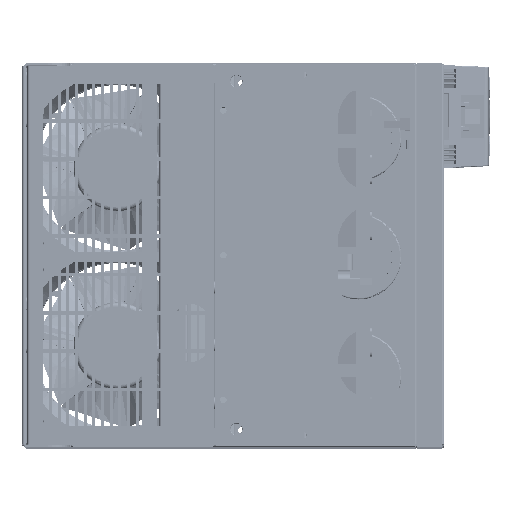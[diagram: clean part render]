
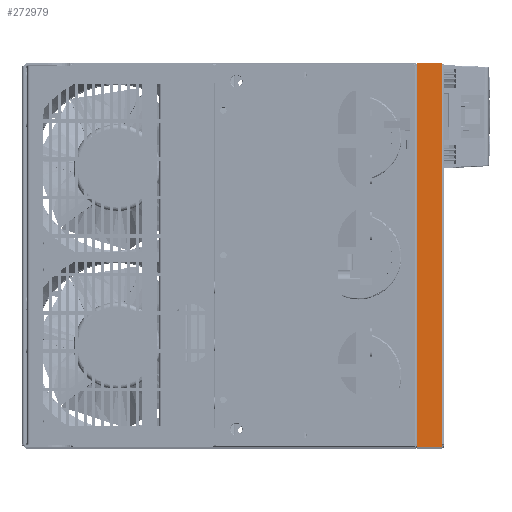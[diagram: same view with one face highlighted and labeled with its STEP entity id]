
A CAD part, top view. The second image highlights one B-rep face of the part: STEP entity #272979.
In plain terms, the highlighted planar face has unit normal (0, 0, 1) as drawn and (0, 1, 0) by its records, which use the part's own axes.
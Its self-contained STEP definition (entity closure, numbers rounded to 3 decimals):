
#3180 = CARTESIAN_POINT ( 'NONE',  ( -132.5, 60., -18.5 ) ) ;
#12758 = ORIENTED_EDGE ( 'NONE', *, *, #317244, .F. ) ;
#14621 = EDGE_CURVE ( 'NONE', #276364, #392534, #554787, .T. ) ;
#25771 = VECTOR ( 'NONE', #226855, 1000. ) ;
#62186 = CARTESIAN_POINT ( 'NONE',  ( 261.606, 60., -1.7 ) ) ;
#90907 = DIRECTION ( 'NONE',  ( 1., 0., 0. ) ) ;
#106011 = DIRECTION ( 'NONE',  ( -1., 0., 0. ) ) ;
#125916 = VECTOR ( 'NONE', #217160, 1000. ) ;
#147074 = CARTESIAN_POINT ( 'NONE',  ( 132.5, 60., -1.7 ) ) ;
#148798 = ORIENTED_EDGE ( 'NONE', *, *, #404184, .F. ) ;
#155896 = VECTOR ( 'NONE', #90907, 1000. ) ;
#164400 = CARTESIAN_POINT ( 'NONE',  ( 132.5, 60., -1.7 ) ) ;
#181533 = EDGE_CURVE ( 'NONE', #445035, #392534, #356980, .T. ) ;
#182358 = DIRECTION ( 'NONE',  ( 0., 0., -1. ) ) ;
#185010 = ORIENTED_EDGE ( 'NONE', *, *, #181533, .F. ) ;
#186387 = VECTOR ( 'NONE', #472108, 1000. ) ;
#217160 = DIRECTION ( 'NONE',  ( 1., 0., 0. ) ) ;
#222802 = VECTOR ( 'NONE', #182358, 1000. ) ;
#226855 = DIRECTION ( 'NONE',  ( -1., 0., 0. ) ) ;
#239855 = CARTESIAN_POINT ( 'NONE',  ( 130.293, 60., -1.7 ) ) ;
#240387 = VERTEX_POINT ( 'NONE', #358919 ) ;
#245427 = DIRECTION ( 'NONE',  ( 0., 1., 0. ) ) ;
#246792 = ORIENTED_EDGE ( 'NONE', *, *, #412716, .F. ) ;
#268572 = CARTESIAN_POINT ( 'NONE',  ( -130.293, 60., -1.7 ) ) ;
#272940 = VERTEX_POINT ( 'NONE', #239855 ) ;
#272979 = ADVANCED_FACE ( 'b?', ( #524391 ), #547698, .T. ) ;
#276364 = VERTEX_POINT ( 'NONE', #147074 ) ;
#302083 = LINE ( 'NONE', #515739, #186387 ) ;
#317244 = EDGE_CURVE ( 'NONE', #240387, #423941, #488162, .T. ) ;
#324416 = ORIENTED_EDGE ( 'NONE', *, *, #497618, .T. ) ;
#356980 = LINE ( 'NONE', #521186, #125916 ) ;
#358919 = CARTESIAN_POINT ( 'NONE',  ( -130.293, 60., -1.7 ) ) ;
#392534 = VERTEX_POINT ( 'NONE', #419979 ) ;
#393846 = ORIENTED_EDGE ( 'NONE', *, *, #14621, .T. ) ;
#394966 = CARTESIAN_POINT ( 'NONE',  ( 130.293, 60., -1.7 ) ) ;
#404184 = EDGE_CURVE ( 'NONE', #423941, #445035, #302083, .T. ) ;
#412716 = EDGE_CURVE ( 'NONE', #272940, #240387, #526278, .T. ) ;
#419979 = CARTESIAN_POINT ( 'NONE',  ( 132.5, 60., -18.5 ) ) ;
#423941 = VERTEX_POINT ( 'NONE', #429835 ) ;
#429835 = CARTESIAN_POINT ( 'NONE',  ( -132.5, 60., -1.7 ) ) ;
#438769 = EDGE_LOOP ( 'NONE', ( #148798, #12758, #246792, #324416, #393846, #185010 ) ) ;
#445035 = VERTEX_POINT ( 'NONE', #3180 ) ;
#472108 = DIRECTION ( 'NONE',  ( 0., 0., -1. ) ) ;
#488162 = LINE ( 'NONE', #268572, #25771 ) ;
#497618 = EDGE_CURVE ( 'NONE', #272940, #276364, #502772, .T. ) ;
#502772 = LINE ( 'NONE', #394966, #155896 ) ;
#505854 = CARTESIAN_POINT ( 'NONE',  ( 0., 60., 0. ) ) ;
#512743 = VECTOR ( 'NONE', #106011, 1000. ) ;
#515739 = CARTESIAN_POINT ( 'NONE',  ( -132.5, 60., -1.7 ) ) ;
#521186 = CARTESIAN_POINT ( 'NONE',  ( 132.5, 60., -18.5 ) ) ;
#524391 = FACE_OUTER_BOUND ( 'NONE', #438769, .T. ) ;
#526278 = LINE ( 'NONE', #62186, #512743 ) ;
#547698 = PLANE ( 'NONE',  #551050 ) ;
#549608 = DIRECTION ( 'NONE',  ( 0., 0., 1. ) ) ;
#551050 = AXIS2_PLACEMENT_3D ( 'NONE', #505854, #245427, #549608 ) ;
#554787 = LINE ( 'NONE', #164400, #222802 ) ;
